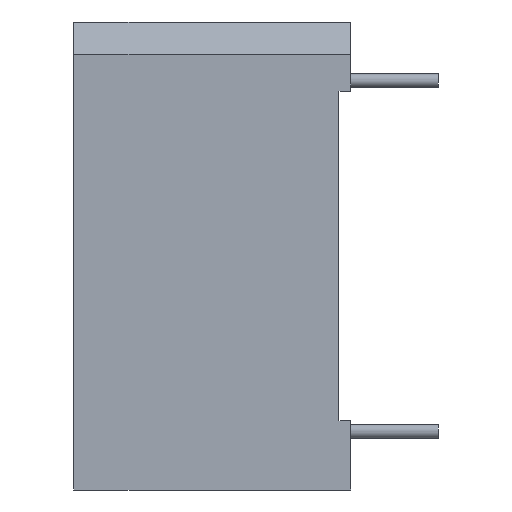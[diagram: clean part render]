
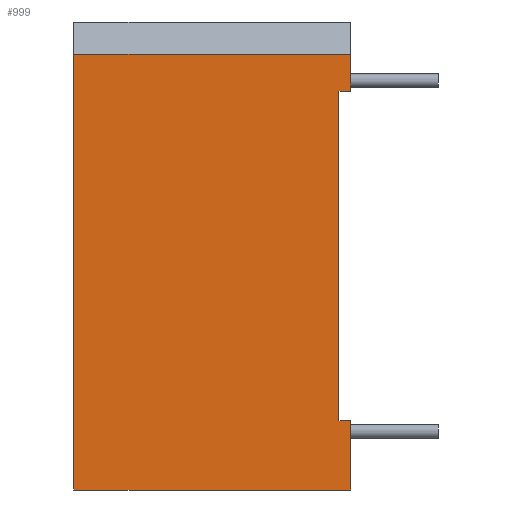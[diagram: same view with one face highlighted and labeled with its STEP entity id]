
A CAD part, left-side view. The second image highlights one B-rep face of the part: STEP entity #999.
In plain terms, the highlighted planar face has unit normal (-1, 0, 0).
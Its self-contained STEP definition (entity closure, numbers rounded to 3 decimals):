
#14 = LINE ( 'NONE', #1095, #611 ) ;
#21 = LINE ( 'NONE', #430, #683 ) ;
#78 = CARTESIAN_POINT ( 'NONE',  ( -15.9, 11.5, -10.15 ) ) ;
#79 = CARTESIAN_POINT ( 'NONE',  ( -15.9, 0., -7.15 ) ) ;
#85 = CARTESIAN_POINT ( 'NONE',  ( -15.9, 11.5, -10.15 ) ) ;
#107 = ORIENTED_EDGE ( 'NONE', *, *, #781, .F. ) ;
#135 = VERTEX_POINT ( 'NONE', #273 ) ;
#228 = VECTOR ( 'NONE', #913, 1000. ) ;
#244 = VERTEX_POINT ( 'NONE', #955 ) ;
#255 = VECTOR ( 'NONE', #1082, 1000. ) ;
#273 = CARTESIAN_POINT ( 'NONE',  ( -15.9, -0.5, -7.15 ) ) ;
#278 = VERTEX_POINT ( 'NONE', #79 ) ;
#285 = VERTEX_POINT ( 'NONE', #393 ) ;
#287 = EDGE_CURVE ( 'NONE', #135, #429, #1265, .T. ) ;
#288 = LINE ( 'NONE', #78, #819 ) ;
#289 = CARTESIAN_POINT ( 'NONE',  ( -15.9, -0.5, -7.15 ) ) ;
#328 = EDGE_CURVE ( 'NONE', #244, #1232, #1186, .T. ) ;
#393 = CARTESIAN_POINT ( 'NONE',  ( -15.9, -0.5, 7.15 ) ) ;
#429 = VERTEX_POINT ( 'NONE', #445 ) ;
#430 = CARTESIAN_POINT ( 'NONE',  ( -15.9, -0.5, -7.15 ) ) ;
#445 = CARTESIAN_POINT ( 'NONE',  ( -15.9, -0.5, -10.15 ) ) ;
#458 = FACE_OUTER_BOUND ( 'NONE', #1027, .T. ) ;
#492 = CARTESIAN_POINT ( 'NONE',  ( -15.9, 0., -10.15 ) ) ;
#540 = VECTOR ( 'NONE', #982, 1000. ) ;
#566 = ORIENTED_EDGE ( 'NONE', *, *, #1156, .T. ) ;
#581 = ORIENTED_EDGE ( 'NONE', *, *, #870, .F. ) ;
#587 = EDGE_CURVE ( 'NONE', #1041, #429, #288, .T. ) ;
#611 = VECTOR ( 'NONE', #1209, 1000. ) ;
#617 = CARTESIAN_POINT ( 'NONE',  ( -15.9, 11.5, -10.15 ) ) ;
#628 = LINE ( 'NONE', #492, #1116 ) ;
#635 = DIRECTION ( 'NONE',  ( 0., 0., -1. ) ) ;
#673 = CARTESIAN_POINT ( 'NONE',  ( -15.9, -0.5, 7.15 ) ) ;
#683 = VECTOR ( 'NONE', #1296, 1000. ) ;
#690 = LINE ( 'NONE', #1225, #228 ) ;
#730 = DIRECTION ( 'NONE',  ( 0., 0., -1. ) ) ;
#732 = VERTEX_POINT ( 'NONE', #997 ) ;
#755 = ORIENTED_EDGE ( 'NONE', *, *, #1190, .F. ) ;
#781 = EDGE_CURVE ( 'NONE', #285, #732, #1191, .T. ) ;
#819 = VECTOR ( 'NONE', #1273, 1000. ) ;
#833 = ORIENTED_EDGE ( 'NONE', *, *, #587, .T. ) ;
#835 = AXIS2_PLACEMENT_3D ( 'NONE', #617, #1058, #635 ) ;
#868 = CARTESIAN_POINT ( 'NONE',  ( -15.9, 11.5, 8.75 ) ) ;
#870 = EDGE_CURVE ( 'NONE', #1041, #1232, #690, .T. ) ;
#913 = DIRECTION ( 'NONE',  ( 0., 0., 1. ) ) ;
#941 = ORIENTED_EDGE ( 'NONE', *, *, #1073, .T. ) ;
#953 = PLANE ( 'NONE',  #835 ) ;
#955 = CARTESIAN_POINT ( 'NONE',  ( -15.9, -0.5, 8.75 ) ) ;
#966 = CARTESIAN_POINT ( 'NONE',  ( -15.9, 11.5, 8.75 ) ) ;
#982 = DIRECTION ( 'NONE',  ( 0., 1., 0. ) ) ;
#997 = CARTESIAN_POINT ( 'NONE',  ( -15.9, 0., 7.15 ) ) ;
#999 = ADVANCED_FACE ( 'NONE', ( #458 ), #953, .F. ) ;
#1027 = EDGE_LOOP ( 'NONE', ( #833, #1306, #566, #941, #107, #755, #1347, #581 ) ) ;
#1041 = VERTEX_POINT ( 'NONE', #85 ) ;
#1044 = DIRECTION ( 'NONE',  ( 0., 0., 1. ) ) ;
#1058 = DIRECTION ( 'NONE',  ( 1., 0., 0. ) ) ;
#1073 = EDGE_CURVE ( 'NONE', #278, #732, #628, .T. ) ;
#1082 = DIRECTION ( 'NONE',  ( 0., 1., 0. ) ) ;
#1095 = CARTESIAN_POINT ( 'NONE',  ( -15.9, -0.5, 8.75 ) ) ;
#1116 = VECTOR ( 'NONE', #1044, 1000. ) ;
#1142 = VECTOR ( 'NONE', #730, 1000. ) ;
#1156 = EDGE_CURVE ( 'NONE', #135, #278, #21, .T. ) ;
#1186 = LINE ( 'NONE', #868, #540 ) ;
#1190 = EDGE_CURVE ( 'NONE', #244, #285, #14, .T. ) ;
#1191 = LINE ( 'NONE', #673, #255 ) ;
#1209 = DIRECTION ( 'NONE',  ( 0., 0., -1. ) ) ;
#1225 = CARTESIAN_POINT ( 'NONE',  ( -15.9, 11.5, -10.15 ) ) ;
#1232 = VERTEX_POINT ( 'NONE', #966 ) ;
#1265 = LINE ( 'NONE', #289, #1142 ) ;
#1273 = DIRECTION ( 'NONE',  ( 0., -1., 0. ) ) ;
#1296 = DIRECTION ( 'NONE',  ( 0., 1., 0. ) ) ;
#1306 = ORIENTED_EDGE ( 'NONE', *, *, #287, .F. ) ;
#1347 = ORIENTED_EDGE ( 'NONE', *, *, #328, .T. ) ;
